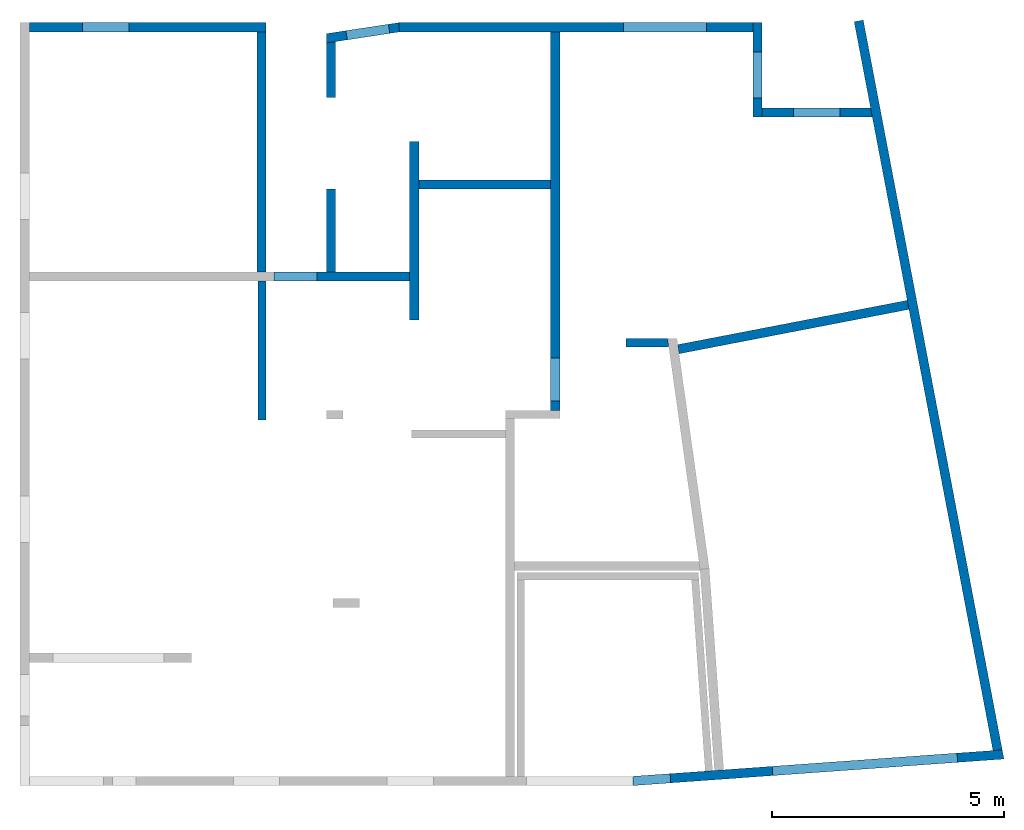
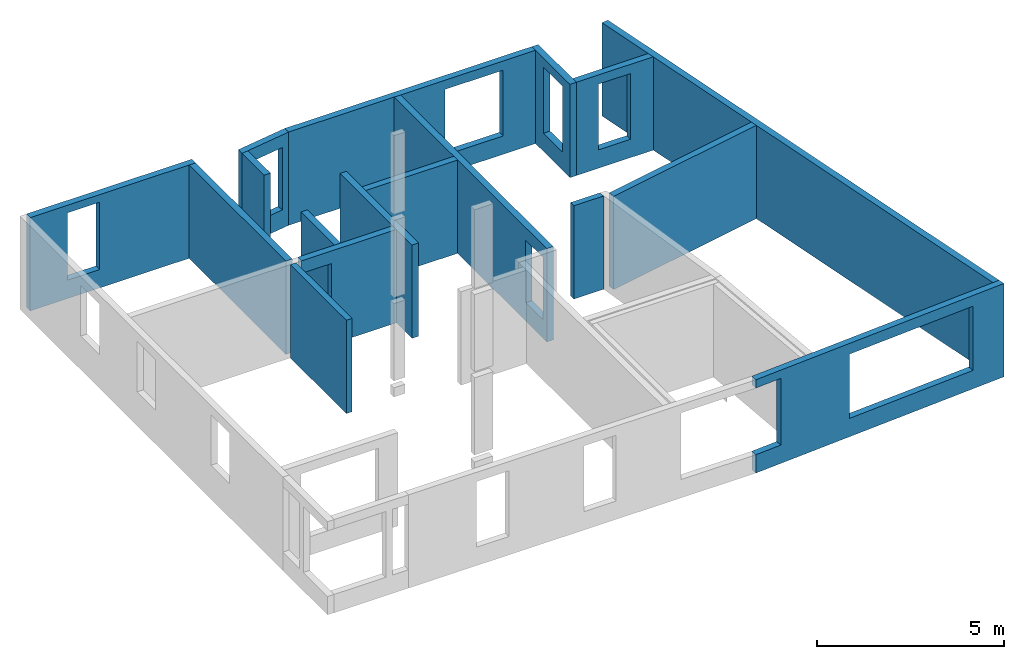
# One storey, part 2 of 2: 17 walls, 10 openings.
"""IFC2X3 building model written with IfcOpenShell, lengths in centimetres."""

from ifc_helpers import new_model, entity, si_unit, converted_unit, derived_unit, direction, frame, frame_2d, origin, origin_2d_with_axis, place, context, subcontext, project, spatial, polyline, rectangle, outline, extrude, clip, bounded_halfspace, material, layer, layer_set, layer_usage, type_object, element, save


model = new_model("IFC2X3")

# Units and contexts
model_context = context("Model", 3, precision=0.001, world=origin(), true_north=direction((6.12303176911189e-17, 1.0)))
body_context = subcontext(model_context, "Body", "Model", "MODEL_VIEW")
ifc_project = project(units=[si_unit("LENGTHUNIT", "METRE", prefix="CENTI"), si_unit("AREAUNIT", "SQUARE_METRE"), si_unit("VOLUMEUNIT", "CUBIC_METRE"), converted_unit("PLANEANGLEUNIT", "DEGREE", entity("IfcRatioMeasure", 0.0174532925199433), si_unit("PLANEANGLEUNIT", "RADIAN"), dimensions=[0, 0, 0, 0, 0, 0, 0]), si_unit("MASSUNIT", "GRAM", prefix="KILO"), si_unit("TIMEUNIT", "SECOND"), si_unit("FREQUENCYUNIT", "HERTZ"), si_unit("THERMODYNAMICTEMPERATUREUNIT", "DEGREE_CELSIUS"), derived_unit("THERMALTRANSMITTANCEUNIT", [(si_unit("MASSUNIT", "GRAM", prefix="KILO"), 1), (si_unit("THERMODYNAMICTEMPERATUREUNIT", "KELVIN"), -1), (si_unit("TIMEUNIT", "SECOND"), -3)]), derived_unit("VOLUMETRICFLOWRATEUNIT", [(si_unit("LENGTHUNIT", "METRE"), 3), (si_unit("TIMEUNIT", "SECOND"), -1)]), si_unit("ELECTRICCURRENTUNIT", "AMPERE"), si_unit("ELECTRICVOLTAGEUNIT", "VOLT"), si_unit("POWERUNIT", "WATT"), si_unit("FORCEUNIT", "NEWTON"), si_unit("ILLUMINANCEUNIT", "LUX"), si_unit("LUMINOUSFLUXUNIT", "LUMEN"), si_unit("LUMINOUSINTENSITYUNIT", "CANDELA"), derived_unit("USERDEFINED", [(si_unit("MASSUNIT", "GRAM", prefix="KILO"), -1), (si_unit("LENGTHUNIT", "METRE"), -2), (si_unit("TIMEUNIT", "SECOND"), 3), (si_unit("LUMINOUSFLUXUNIT", "LUMEN"), 1)]), derived_unit("LINEARVELOCITYUNIT", [(si_unit("LENGTHUNIT", "METRE"), 1), (si_unit("TIMEUNIT", "SECOND"), -1)]), si_unit("PRESSUREUNIT", "PASCAL"), derived_unit("USERDEFINED", [(si_unit("LENGTHUNIT", "METRE"), -2), (si_unit("MASSUNIT", "GRAM", prefix="KILO"), 1), (si_unit("TIMEUNIT", "SECOND"), -2)])], contexts=[model_context])

# Site, building, storey
site_placement = place(None, origin())
site = spatial("IfcSite", under=ifc_project, at=site_placement, Name="Default", CompositionType="ELEMENT")
building_placement = place(site_placement, origin())
building = spatial("IfcBuilding", under=site, at=building_placement, CompositionType="ELEMENT")
storey_placement = place(building_placement, frame((0.0, 0.0, -60.0)))
storey = spatial("IfcBuildingStorey", under=building, at=storey_placement, Name="Fondations", CompositionType="ELEMENT", Elevation=-60.0)

# Wall, opening
ifc_material_1 = material(Name="Maçonnerie - Béton")
ifc_layer_1 = layer(ifc_material_1, 20.0)
ifc_layer_set_1 = layer_set([ifc_layer_1], Name="Mur de base:BBM_20")
ifc_layer_usage_1 = layer_usage(ifc_layer_set_1, "AXIS2", "NEGATIVE", 10.0)
wall_type_1 = type_object("IfcWallType", Name="Mur de base:BBM_20", PredefinedType="STANDARD", material=ifc_layer_set_1)
wall_1_placement = place(storey_placement, frame((896.385889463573, 24844.4143798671, 0.0)))
wall_1 = element("IfcWallStandardCase", 1, at=wall_1_placement, inside=storey, type_object=wall_type_1, material=ifc_layer_usage_1, Name="Mur de base:BBM_20", ObjectType="Mur de base:BBM_20", context=body_context, shape_type="Clipping", body=[
    clip(clip(extrude(rectangle(XDim=511.405750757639, YDim=20.0000000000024, at=frame_2d((255.702875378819, 0.0), x_axis=(-1.0, 0.0))), origin(), (0.0, 0.0, 1.0), 304.999999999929), bounded_halfspace(frame((216.02536059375, -10.0, 305.0), z_axis=(0.0, 0.0, -1.0), x_axis=(0.0, 1.0, 0.0)), True, frame((216.02536059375, -10.0, 305.0)), polyline([(0.0, 0.0), (275.380390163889, 0.0), (295.380390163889, 0.0), (295.380390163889, 20.0), (0.0, 20.0), (0.0, 0.0)]))), bounded_halfspace(frame((0.0, -10.0, 305.0), z_axis=(0.0, 0.0, -1.0), x_axis=(-1.0, 0.0, 0.0)), True, frame((0.0, -10.0, 305.0)), polyline([(0.0, 0.0), (216.02536059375, 0.0), (216.02536059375, 20.0), (0.0, 20.0), (0.0, 0.0)]))),
])
opening_1_placement = place(wall_1_placement, frame((-896.385889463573, -24844.4143798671, 60.0)))
element("IfcOpeningElement", 2, at=opening_1_placement, cuts=wall_1, Name="Mur de base:BBM_20", ObjectType="Opening", context=body_context, shape_type="SweptSolid", body=[
    extrude(rectangle(XDim=220.0, YDim=100.0, at=frame_2d((0.0, -1.10134124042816e-13), x_axis=(1.0, 0.0))), frame((1061.38588946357, 24702.0143798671, 110.0), z_axis=(0.0, 1.0, 0.0), x_axis=(0.0, 0.0, -1.0)), (0.0, 0.0, 1.0), 304.8),
])

# Wall, openings
ifc_layer_usage_2 = layer_usage(ifc_layer_set_1, "AXIS2", "NEGATIVE", 10.0)
wall_2_placement = place(storey_placement, frame((3000.02161908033, 23274.6567035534, 0.0), z_axis=(0.0, 0.0, 1.0), x_axis=(-0.997441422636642, -0.0714885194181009, 0.0)))
wall_2 = element("IfcWallStandardCase", 3, at=wall_2_placement, inside=storey, type_object=wall_type_1, material=ifc_layer_usage_2, Name="Mur de base:BBM_20", ObjectType="Mur de base:BBM_20", context=body_context, shape_type="Clipping", body=[
    clip(clip(extrude(outline(polyline([(801.942808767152, -10.0), (802.658609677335, 10.0), (0.0, 10.0), (2.34328815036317, -10.0), (22.4800952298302, -10.0), (605.271380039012, -10.0), (625.271380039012, -10.0), (629.268510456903, -10.0), (645.268510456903, -10.0), (801.942808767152, -10.0)])), origin(), (0.0, 0.0, 1.0), 304.999999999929), bounded_halfspace(frame((605.271380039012, -10.0, 305.0), z_axis=(0.0, 0.0, -1.0), x_axis=(-0.0714885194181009, -0.997441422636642, 0.0)), True, frame((605.271380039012, -10.0, 305.0)), polyline([(0.0, 0.0), (20.0, 0.0), (23.9971304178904, 0.0), (39.9971304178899, 0.0), (196.671428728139, 0.0), (197.387229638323, 20.0), (0.0, 20.0), (0.0, 0.0)]))), bounded_halfspace(frame((2.34328815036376, -10.0, 305.0), z_axis=(0.0, 0.0, -1.0), x_axis=(-0.116368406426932, 0.993206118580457, 0.0)), True, frame((2.34328815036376, -10.0, 305.0)), polyline([(0.0, 0.0), (20.1368070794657, 0.0), (602.928091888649, 0.0), (602.92809188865, 20.0), (-2.34328815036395, 20.0), (0.0, 0.0)]))),
])
opening_2_placement = place(wall_2_placement, origin())
element("IfcOpeningElement", 4, at=opening_2_placement, cuts=wall_2, Name="Mur de base:BBM_20", ObjectType="Opening", context=body_context, shape_type="SweptSolid", body=[
    extrude(rectangle(XDim=218.0, YDim=93.0000000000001, at=frame_2d((2.16715534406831e-13, 0.0), x_axis=(0.0, 1.0))), frame((843.095481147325, -12.9494901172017, 169.0), z_axis=(0.0714885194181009, 0.997441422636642, 0.0), x_axis=(0.997441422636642, -0.0714885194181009, 0.0)), (0.0, 0.0, 1.0), 19.9999999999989),
])
opening_3_placement = place(wall_2_placement, frame((4656.21657937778, 23000.6395900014, 60.0), z_axis=(0.0, 0.0, 1.0), x_axis=(-0.997441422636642, 0.0714885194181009, 0.0)))
element("IfcOpeningElement", 5, at=opening_3_placement, cuts=wall_2, Name="Mur de base:BBM_20", ObjectType="Opening", context=body_context, shape_type="SweptSolid", body=[
    extrude(rectangle(XDim=218.0, YDim=80.0, at=frame_2d((0.0, 0.0), x_axis=(0.0, 1.0))), frame((2229.09113744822, 23382.2192318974, 109.0), z_axis=(0.0714885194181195, -0.99744142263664, 0.0), x_axis=(-0.99744142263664, -0.0714885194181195, 0.0)), (0.0, 0.0, 1.0), 304.8),
])
opening_4_placement = place(wall_2_placement, frame((4656.21657937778, 23000.6395900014, 60.0), z_axis=(0.0, 0.0, 1.0), x_axis=(-0.997441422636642, 0.0714885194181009, 0.0)))
element("IfcOpeningElement", 6, at=opening_4_placement, cuts=wall_2, Name="Mur de base:BBM_20", ObjectType="Opening", context=body_context, shape_type="SweptSolid", body=[
    extrude(rectangle(XDim=210.0, YDim=400.0, at=frame_2d((2.1316282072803e-13, 0.0), x_axis=(0.0, 1.0))), frame((2688.90877104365, 23415.175234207, 105.0), z_axis=(0.0714885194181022, -0.997441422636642, 0.0), x_axis=(-0.997441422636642, -0.0714885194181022, 0.0)), (0.0, 0.0, 1.0), 304.800000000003),
])

# Wall
ifc_layer_usage_3 = layer_usage(ifc_layer_set_1, "AXIS2", "NEGATIVE", 10.0)
wall_3_placement = place(storey_placement, frame((2687.07809573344, 24858.2861485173, 0.0), z_axis=(0.0, 0.0, 1.0), x_axis=(0.187073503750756, -0.982345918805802, 0.0)))
element("IfcWallStandardCase", 7, at=wall_3_placement, inside=storey, type_object=wall_type_1, material=ifc_layer_usage_3, Name="Mur de base:BBM_20", ObjectType="Mur de base:BBM_20", context=body_context, shape_type="Clipping", body=[
    clip(clip(clip(extrude(outline(polyline([(1601.66732950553, -10.0), (1604.01061765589, 10.0), (0.0, 10.0), (0.0, -10.0), (189.290565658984, -10.0), (209.649992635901, -10.0), (612.258431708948, -10.0), (632.258493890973, -10.0), (1601.66732950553, -10.0)])), origin(), (0.0, 0.0, 1.0), 304.999999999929), bounded_halfspace(frame((1601.66732950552, -10.0, 305.0), z_axis=(0.0, 0.0, -1.0), x_axis=(1.0, 0.0, 0.0)), True, frame((1601.66732950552, -10.0, 305.0)), polyline([(0.0, 0.0), (2.34328815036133, 20.0), (-291.845773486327, 20.0), (-291.845773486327, 0.0), (-288.220747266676, 0.0), (0.0, 0.0)]))), bounded_halfspace(frame((1309.8215560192, 10.0, 305.0), z_axis=(0.0, 0.0, -1.0), x_axis=(-0.982345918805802, 0.187073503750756, 0.0)), True, frame((1309.8215560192, 10.0, 305.0)), polyline([(0.0, 0.0), (-1116.72228102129, 0.0), (-1120.53099036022, -20.0), (-1100.1715633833, -20.0), (-697.563124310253, -20.0), (-677.563062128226, -20.0), (-26.3750670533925, -20.0), (0.0, -20.0), (0.0, 0.0)]))), bounded_halfspace(frame((193.099274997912, 10.0, 305.0), z_axis=(0.0, 0.0, -1.0), x_axis=(-0.982345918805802, 0.187073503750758, 0.0)), True, frame((193.099274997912, 10.0, 305.0)), polyline([(0.0, 0.0), (-187.253856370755, 0.0), (-191.062565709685, -20.0), (-3.80870933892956, -20.0), (0.0, 0.0)]))),
])

# Wall, opening
ifc_layer_usage_4 = layer_usage(ifc_layer_set_1, "AXIS2", "NEGATIVE", 10.0)
wall_4_placement = place(storey_placement, frame((2478.78827646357, 24660.4665988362, 0.0)))
wall_4 = element("IfcWallStandardCase", 8, at=wall_4_placement, inside=storey, type_object=wall_type_1, material=ifc_layer_usage_4, Name="Mur de base:BBM_20", ObjectType="Mur de base:BBM_20", context=body_context, shape_type="Clipping", body=[
    clip(extrude(outline(polyline([(237.686318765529, -10.0), (233.877609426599, 10.0), (0.0, 10.0), (0.0, -10.0), (237.686318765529, -10.0)])), origin(), (0.0, 0.0, 1.0), 304.999999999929), bounded_halfspace(frame((0.0, -10.0, 305.0), z_axis=(0.0, 0.0, -1.0), x_axis=(0.0, 1.0, 0.0)), True, frame((0.0, -10.0, 305.0)), polyline([(0.0, 0.0), (237.686318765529, 0.0), (233.877609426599, 20.0), (0.0, 20.0), (0.0, 0.0)]))),
])
opening_5_placement = place(wall_4_placement, frame((-2478.78827646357, -24660.4665988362, 60.0)))
element("IfcOpeningElement", 9, at=opening_5_placement, cuts=wall_4, Name="Mur de base:BBM_20", ObjectType="Opening", context=body_context, shape_type="SweptSolid", body=[
    extrude(rectangle(XDim=215.0, YDim=99.9999999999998, at=origin_2d_with_axis()), frame((2596.78827646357, 24518.0665988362, 107.5), z_axis=(0.0, 1.0, 0.0), x_axis=(0.0, 0.0, -1.0)), (0.0, 0.0, 1.0), 304.8),
])

ifc_layer_usage_5 = layer_usage(ifc_layer_set_1, "AXIS2", "NEGATIVE", 10.0)
wall_5_placement = place(storey_placement, frame((2468.78827646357, 24854.4153798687, 0.0), z_axis=(0.0, 0.0, 1.0), x_axis=(0.0, -1.0, 0.0)))
wall_5 = element("IfcWallStandardCase", 10, at=wall_5_placement, inside=storey, type_object=wall_type_1, material=ifc_layer_usage_5, Name="Mur de base:BBM_20", ObjectType="Mur de base:BBM_20", context=body_context, shape_type="Clipping", body=[
    clip(extrude(rectangle(XDim=203.948781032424, YDim=19.9999999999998, at=frame_2d((101.974390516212, 0.0), x_axis=(-1.0, 0.0))), origin(), (0.0, 0.0, 1.0), 304.999999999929), bounded_halfspace(frame((0.0, 10.0, 305.0), z_axis=(0.0, 0.0, -1.0), x_axis=(-1.0, 0.0, 0.0)), True, frame((0.0, 10.0, 305.0)), polyline([(0.0, 0.0), (0.0, -20.0), (20.0, -20.0), (203.948781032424, -20.0), (203.948781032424, 0.0), (183.948781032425, 0.0), (0.0, 0.0)]))),
])
opening_6_placement = place(wall_5_placement, frame((24854.4153798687, -2468.78827646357, 60.0), z_axis=(0.0, 0.0, 1.0), x_axis=(0.0, 1.0, 0.0)))
element("IfcOpeningElement", 11, at=opening_6_placement, cuts=wall_5, Name="Mur de base:BBM_20", ObjectType="Opening", context=body_context, shape_type="SweptSolid", body=[
    extrude(rectangle(XDim=215.0, YDim=100.000000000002, at=frame_2d((0.0, 1.73372427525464e-12), x_axis=(1.0, 0.0))), frame((2326.38827646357, 24741.4665988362, 107.5), z_axis=(1.0, 0.0, 0.0), x_axis=(0.0, 0.0, -1.0)), (0.0, 0.0, 1.0), 304.8),
])

ifc_layer_usage_6 = layer_usage(ifc_layer_set_1, "AXIS2", "POSITIVE", -10.0)
wall_6_placement = place(storey_placement, frame((2458.78827646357, 24844.4153798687, 0.0), z_axis=(0.0, 0.0, 1.0), x_axis=(-1.0, 0.0, 0.0)))
wall_6 = element("IfcWallStandardCase", 12, at=wall_6_placement, inside=storey, type_object=wall_type_1, material=ifc_layer_usage_6, Name="Mur de base:BBM_20", ObjectType="Mur de base:BBM_20", context=body_context, shape_type="Clipping", body=[
    clip(extrude(outline(polyline([(764.67182096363, -10.0), (763.161165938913, 10.0), (436.995667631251, 10.0), (416.995667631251, 10.0), (0.0, 10.0), (0.0, -10.0), (764.67182096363, -10.0)])), origin(), (0.0, 0.0, 1.0), 304.999999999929), bounded_halfspace(frame((0.0, -10.0, 305.0), z_axis=(0.0, 0.0, -1.0), x_axis=(0.0, -1.0, 0.0)), True, frame((0.0, -10.0, 305.0)), polyline([(0.0, 0.0), (764.67182096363, 0.0), (763.161165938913, 20.0), (436.995667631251, 20.0), (416.995667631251, 20.0), (0.0, 20.0), (0.0, 0.0)]))),
])
opening_7_placement = place(wall_6_placement, frame((2458.78827646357, 24844.4153798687, 60.0), z_axis=(0.0, 0.0, 1.0), x_axis=(-1.0, 0.0, 0.0)))
element("IfcOpeningElement", 13, at=opening_7_placement, cuts=wall_6, Name="Mur de base:BBM_20", ObjectType="Opening", context=body_context, shape_type="SweptSolid", body=[
    extrude(rectangle(XDim=215.0, YDim=180.0, at=frame_2d((0.0, 0.0), x_axis=(0.0, 1.0))), frame((2268.78827646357, 25006.8153798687, 107.5), z_axis=(0.0, -1.0, 0.0), x_axis=(-1.0, 0.0, 0.0)), (0.0, 0.0, 1.0), 304.8),
])

ifc_layer_usage_7 = layer_usage(ifc_layer_set_1, "AXIS2", "NEGATIVE", 10.0)
wall_7_placement = place(storey_placement, frame((1536.28981461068, 24820.3216556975, 0.0), z_axis=(0.0, 0.0, 1.0), x_axis=(0.988654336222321, 0.15020853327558, 0.0)))
wall_7 = element("IfcWallStandardCase", 14, at=wall_7_placement, inside=storey, type_object=wall_type_1, material=ifc_layer_usage_7, Name="Mur de base:BBM_20", ObjectType="Mur de base:BBM_20", context=body_context, shape_type="Clipping", body=[
    clip(extrude(outline(polyline([(159.646506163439, -10.0), (161.157161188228, 10.0), (3.03864612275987, 10.0), (0.0, -10.0), (20.2295173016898, -10.0), (159.646506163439, -10.0)])), origin(), (0.0, 0.0, 1.0), 304.999999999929), bounded_halfspace(frame((0.0, -10.0, 305.0), z_axis=(0.0, 0.0, -1.0), x_axis=(0.15020853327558, 0.988654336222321, 0.0)), True, frame((0.0, -10.0, 305.0)), polyline([(0.0, 0.0), (20.2295173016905, 0.0), (159.646506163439, 0.0), (161.157161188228, 20.0), (3.03864612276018, 20.0), (0.0, 0.0)]))),
])
opening_8_placement = place(wall_7_placement, frame((-5247.08369823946, -24307.9547915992, 60.0), z_axis=(0.0, 0.0, 1.0), x_axis=(0.988654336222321, -0.15020853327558, 0.0)))
element("IfcOpeningElement", 15, at=opening_8_placement, cuts=wall_7, Name="Mur de base:BBM_20", ObjectType="Opening", context=body_context, shape_type="SweptSolid", body=[
    extrude(rectangle(XDim=204.0, YDim=93.0000000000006, at=frame_2d((0.0, 2.55795384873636e-13), x_axis=(1.0, 0.0))), frame((1648.73198289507, 24693.3710904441, 102.0), z_axis=(-0.150208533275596, 0.988654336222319, 0.0), x_axis=(0.0, 0.0, -1.0)), (0.0, 0.0, 1.0), 304.8),
])

# Walls
ifc_material_2 = material(Name="Béton_C25/30")
ifc_layer_2 = layer(ifc_material_2, 20.0)
ifc_layer_set_2 = layer_set([ifc_layer_2], Name="Mur de base:VOILE_20_C25/30")
ifc_layer_usage_8 = layer_usage(ifc_layer_set_2, "AXIS2", "NEGATIVE", 10.0)
wall_type_2 = type_object("IfcWallType", Name="Mur de base:VOILE_20_C25/30", PredefinedType="STANDARD", material=ifc_layer_set_2)
wall_8_placement = place(storey_placement, frame((1397.79164022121, 24834.4143798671, 0.0), z_axis=(0.0, 0.0, 1.0), x_axis=(0.0, -1.0, 0.0)))
element("IfcWallStandardCase", 16, at=wall_8_placement, inside=storey, type_object=wall_type_2, material=ifc_layer_usage_8, Name="Mur de base:VOILE_20_C25/30", ObjectType="Mur de base:VOILE_20_C25/30", context=body_context, shape_type="Clipping", body=[
    clip(extrude(rectangle(XDim=518.108291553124, YDim=19.9999999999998, at=frame_2d((259.054145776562, 0.0), x_axis=(-1.0, 0.0))), origin(), (0.0, 0.0, 1.0), 304.999999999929), bounded_halfspace(frame((0.0, -10.0, 305.0), z_axis=(0.0, 0.0, -1.0), x_axis=(-1.0, 0.0, 0.0)), True, frame((0.0, -10.0, 305.0)), polyline([(0.0, 0.0), (518.108291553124, 0.0), (518.108291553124, 20.0), (0.0, 20.0), (0.0, 0.0)]))),
])
ifc_layer_usage_9 = layer_usage(ifc_layer_set_2, "AXIS2", "NEGATIVE", 10.0)
wall_9_placement = place(storey_placement, frame((1547.79189994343, 24316.306088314, 0.0), z_axis=(0.0, 0.0, 1.0), x_axis=(0.0, 1.0, 0.0)))
element("IfcWallStandardCase", 17, at=wall_9_placement, inside=storey, type_object=wall_type_2, material=ifc_layer_usage_9, Name="Mur de base:VOILE_20_C25/30", ObjectType="Mur de base:VOILE_20_C25/30", context=body_context, shape_type="Clipping", body=[
    clip(extrude(rectangle(XDim=178.833570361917, YDim=19.9999999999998, at=frame_2d((89.4167851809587, 0.0), x_axis=(-1.0, 0.0))), origin(), (0.0, 0.0, 1.0), 304.999999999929), bounded_halfspace(frame((0.0, -10.0, 305.0), z_axis=(0.0, 0.0, -1.0), x_axis=(1.0, 0.0, 0.0)), True, frame((0.0, -10.0, 305.0)), polyline([(0.0, 0.0), (178.833570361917, 0.0), (178.833570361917, 20.0), (0.0, 20.0), (0.0, 0.0)]))),
])

# Wall, opening
ifc_layer_usage_10 = layer_usage(ifc_layer_set_2, "AXIS2", "NEGATIVE", 10.0)
wall_10_placement = place(storey_placement, frame((1717.79214438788, 24306.306088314, 0.0), z_axis=(0.0, 0.0, 1.0), x_axis=(-1.0, 0.0, 0.0)))
wall_10 = element("IfcWallStandardCase", 18, at=wall_10_placement, inside=storey, type_object=wall_type_2, material=ifc_layer_usage_10, Name="Mur de base:VOILE_20_C25/30", ObjectType="Mur de base:VOILE_20_C25/30", context=body_context, shape_type="Clipping", body=[
    clip(extrude(rectangle(XDim=293.260448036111, YDim=20.0000000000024, at=frame_2d((146.630224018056, 0.0), x_axis=(-1.0, 0.0))), origin(), (0.0, 0.0, 1.0), 304.999999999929), bounded_halfspace(frame((0.0, -10.0, 305.0), z_axis=(0.0, 0.0, -1.0), x_axis=(0.0, -1.0, 0.0)), True, frame((0.0, -10.0, 305.0)), polyline([(0.0, 0.0), (160.000244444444, 0.0), (180.000244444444, 0.0), (293.260448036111, 0.0), (293.260448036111, 20.0), (0.0, 20.0), (0.0, 0.0)]))),
])
opening_9_placement = place(wall_10_placement, frame((1717.79214438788, 24306.306088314, 60.0), z_axis=(0.0, 0.0, 1.0), x_axis=(-1.0, 0.0, 0.0)))
element("IfcOpeningElement", 19, at=opening_9_placement, cuts=wall_10, Name="Mur de base:VOILE_20_C25/30", ObjectType="Opening", context=body_context, shape_type="SweptSolid", body=[
    extrude(rectangle(XDim=204.0, YDim=93.0000000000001, at=origin_2d_with_axis()), frame((1471.03169635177, 24448.706088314, 102.0), z_axis=(0.0, -1.0, 0.0), x_axis=(0.0, 0.0, -1.0)), (0.0, 0.0, 1.0), 304.8),
])

# Walls
ifc_layer_usage_11 = layer_usage(ifc_layer_set_2, "AXIS2", "NEGATIVE", 10.0)
wall_11_placement = place(storey_placement, frame((1727.79214438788, 24598.306088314, 0.0), z_axis=(0.0, 0.0, 1.0), x_axis=(0.0, -1.0, 0.0)))
element("IfcWallStandardCase", 20, at=wall_11_placement, inside=storey, type_object=wall_type_2, material=ifc_layer_usage_11, Name="Mur de base:VOILE_20_C25/30", ObjectType="Mur de base:VOILE_20_C25/30", context=body_context, shape_type="Clipping", body=[
    clip(extrude(rectangle(XDim=386.000186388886, YDim=19.9999999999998, at=frame_2d((193.000093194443, 0.0), x_axis=(-1.0, 0.0))), origin(), (0.0, 0.0, 1.0), 304.999999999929), bounded_halfspace(frame((0.0, -10.0, 305.0), z_axis=(0.0, 0.0, -1.0), x_axis=(-1.0, 0.0, 0.0)), True, frame((0.0, -10.0, 305.0)), polyline([(0.0, 0.0), (282.0, 0.0), (302.0, 0.0), (386.000186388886, 0.0), (386.000186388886, 20.0), (103.166429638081, 20.0), (83.1664296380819, 20.0), (0.0, 20.0), (0.0, 0.0)]))),
])
ifc_layer_usage_12 = layer_usage(ifc_layer_set_2, "AXIS2", "NEGATIVE", 10.0)
wall_12_placement = place(storey_placement, frame((1737.79214438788, 24505.1396586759, 0.0)))
element("IfcWallStandardCase", 21, at=wall_12_placement, inside=storey, type_object=wall_type_2, material=ifc_layer_usage_12, Name="Mur de base:VOILE_20_C25/30", ObjectType="Mur de base:VOILE_20_C25/30", context=body_context, shape_type="Clipping", body=[
    clip(extrude(rectangle(XDim=284.000464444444, YDim=20.0000000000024, at=frame_2d((142.000232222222, 0.0), x_axis=(-1.0, 0.0))), origin(), (0.0, 0.0, 1.0), 304.999999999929), bounded_halfspace(frame((0.0, -10.0, 305.0), z_axis=(0.0, 0.0, -1.0), x_axis=(0.0, 1.0, 0.0)), True, frame((0.0, -10.0, 305.0)), polyline([(0.0, 0.0), (284.000464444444, 0.0), (284.000464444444, 20.0), (140.610245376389, 20.0), (122.610245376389, 20.0), (0.0, 20.0), (0.0, 0.0)]))),
])

# Wall, opening
ifc_layer_usage_13 = layer_usage(ifc_layer_set_2, "AXIS2", "NEGATIVE", 10.0)
wall_13_placement = place(storey_placement, frame((2031.79260883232, 24834.4153798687, 0.0), z_axis=(0.0, 0.0, 1.0), x_axis=(0.0, -1.0, 0.0)))
wall_13 = element("IfcWallStandardCase", 22, at=wall_13_placement, inside=storey, type_object=wall_type_2, material=ifc_layer_usage_13, Name="Mur de base:VOILE_20_C25/30", ObjectType="Mur de base:VOILE_20_C25/30", context=body_context, shape_type="Clipping", body=[
    clip(extrude(rectangle(XDim=817.109748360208, YDim=19.9999999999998, at=frame_2d((408.554874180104, 0.0), x_axis=(-1.0, 0.0))), origin(), (0.0, 0.0, 1.0), 304.999999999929), bounded_halfspace(frame((0.0, -10.0, 305.0), z_axis=(0.0, 0.0, -1.0), x_axis=(-1.0, 0.0, 0.0)), True, frame((0.0, -10.0, 305.0)), polyline([(0.0, 0.0), (319.275721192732, 0.0), (339.275721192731, 0.0), (622.109450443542, 0.0), (640.109450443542, 0.0), (817.109748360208, 0.0), (817.109748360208, 20.0), (0.0, 20.0), (0.0, 0.0)]))),
])
opening_10_placement = place(wall_13_placement, frame((24834.4153798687, -2031.79260883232, 60.0), z_axis=(0.0, 0.0, 1.0), x_axis=(0.0, 1.0, 0.0)))
element("IfcOpeningElement", 23, at=opening_10_placement, cuts=wall_13, Name="Mur de base:VOILE_20_C25/30", ObjectType="Opening", context=body_context, shape_type="SweptSolid", body=[
    extrude(rectangle(XDim=204.0, YDim=92.9999999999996, at=frame_2d((0.0, -1.73372427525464e-12), x_axis=(1.0, 0.0))), frame((1889.39260883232, 24083.8056315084, 102.0), z_axis=(1.0, 0.0, 0.0), x_axis=(0.0, 0.0, -1.0)), (0.0, 0.0, 1.0), 304.8),
])

# Walls
ifc_layer_usage_14 = layer_usage(ifc_layer_set_2, "AXIS2", "POSITIVE", -10.0)
wall_14_placement = place(storey_placement, frame((2297.40313512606, 24149.3539511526, 0.0), z_axis=(0.0, 0.0, 1.0), x_axis=(0.981876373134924, 0.189522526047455, 0.0)))
element("IfcWallStandardCase", 24, at=wall_14_placement, inside=storey, type_object=wall_type_2, material=ifc_layer_usage_14, Name="Mur de base:VOILE_20_C25/30", ObjectType="Mur de base:VOILE_20_C25/30", context=body_context, shape_type="Clipping", body=[
    clip(extrude(outline(polyline([(505.394672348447, -10.0), (505.444545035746, 10.0), (1.02187776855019, 10.0), (0.0, -10.0), (505.394672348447, -10.0)])), origin(), (0.0, 0.0, 1.0), 304.999999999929), bounded_halfspace(frame((0.0, -10.0, 305.0), z_axis=(0.0, 0.0, -1.0), x_axis=(0.189522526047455, 0.981876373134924, 0.0)), True, frame((0.0, -10.0, 305.0)), polyline([(0.0, 0.0), (505.394672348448, 0.0), (505.444545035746, 20.0), (1.02187776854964, 20.0), (0.0, 0.0)]))),
])
ifc_layer_usage_15 = layer_usage(ifc_layer_set_2, "AXIS2", "NEGATIVE", 10.0)
wall_15_placement = place(storey_placement, frame((1547.79189994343, 24692.6716908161, 0.0), z_axis=(0.0, 0.0, 1.0), x_axis=(0.0, 1.0, 0.0)))
element("IfcWallStandardCase", 25, at=wall_15_placement, inside=storey, type_object=wall_type_2, material=ifc_layer_usage_15, Name="Mur de base:VOILE_20_C25/30", ObjectType="Mur de base:VOILE_20_C25/30", context=body_context, shape_type="Clipping", body=[
    clip(extrude(outline(polyline([(120.802067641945, -10.0), (117.763421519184, 10.0), (0.0, 10.0), (0.0, -10.0), (120.802067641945, -10.0)])), origin(), (0.0, 0.0, 1.0), 304.999999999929), bounded_halfspace(frame((0.0, -10.0, 305.0), z_axis=(0.0, 0.0, -1.0), x_axis=(1.0, 0.0, 0.0)), True, frame((0.0, -10.0, 305.0)), polyline([(0.0, 0.0), (18.0, 0.0), (120.802067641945, 0.0), (117.763421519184, 20.0), (0.0, 20.0), (0.0, 0.0)]))),
])
ifc_layer_3 = layer(ifc_material_2, 18.0)
ifc_layer_set_3 = layer_set([ifc_layer_3], Name="Mur de base:VOILE_18_C25/30")
ifc_layer_usage_16 = layer_usage(ifc_layer_set_3, "AXIS2", "POSITIVE", -9.0)
wall_type_3 = type_object("IfcWallType", Name="Mur de base:VOILE_18_C25/30", PredefinedType="STANDARD", material=ifc_layer_set_3)
wall_16_placement = place(storey_placement, frame((1398.79167077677, 24296.306088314, 0.0), z_axis=(0.0, 0.0, 1.0), x_axis=(0.0, -1.0, 0.0)))
element("IfcWallStandardCase", 26, at=wall_16_placement, inside=storey, type_object=wall_type_3, material=ifc_layer_usage_16, Name="Mur de base:VOILE_18_C25/30", ObjectType="Mur de base:VOILE_18_C25/30", context=body_context, shape_type="Clipping", body=[
    clip(extrude(rectangle(XDim=300.000000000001, YDim=17.9999999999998, at=frame_2d((150.000000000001, 0.0), x_axis=(-1.0, 0.0))), origin(), (0.0, 0.0, 1.0), 304.999999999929), bounded_halfspace(frame((0.0, -9.0, 305.0), z_axis=(0.0, 0.0, -1.0), x_axis=(-1.0, 0.0, 0.0)), True, frame((0.0, -9.0, 305.0)), polyline([(0.0, 0.0), (300.0, 0.0), (300.0, 18.0), (0.0, 18.0), (0.0, 0.0)]))),
])
ifc_layer_usage_17 = layer_usage(ifc_layer_set_3, "AXIS2", "NEGATIVE", 9.0)
wall_17_placement = place(storey_placement, frame((2184.7928578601, 24163.305840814, 0.0)))
element("IfcWallStandardCase", 27, at=wall_17_placement, inside=storey, type_object=wall_type_3, material=ifc_layer_usage_17, Name="Mur de base:VOILE_18_C25/30", ObjectType="Mur de base:VOILE_18_C25/30", context=body_context, shape_type="Clipping", body=[
    clip(extrude(outline(polyline([(92.2330711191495, -9.0), (89.7033360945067, 9.0), (0.0, 9.0), (0.0, -9.0), (92.2330711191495, -9.0)])), origin(), (0.0, 0.0, 1.0), 304.999999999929), bounded_halfspace(frame((0.0, -9.0, 305.0), z_axis=(0.0, 0.0, -1.0), x_axis=(0.0, 1.0, 0.0)), True, frame((0.0, -9.0, 305.0)), polyline([(0.0, 0.0), (92.2330711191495, 0.0), (89.7033360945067, 18.0), (0.0, 18.0), (0.0, 0.0)]))),
])

save(model, "model.ifc")
